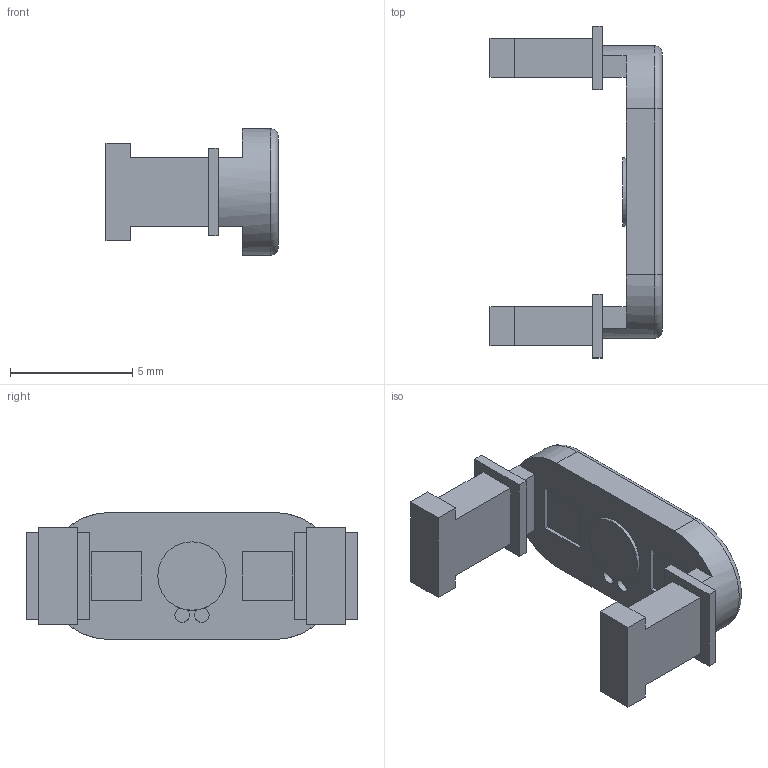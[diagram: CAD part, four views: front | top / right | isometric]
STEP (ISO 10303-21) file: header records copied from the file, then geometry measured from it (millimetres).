
FILE_DESCRIPTION(('Open CASCADE Model'),'2;1');
FILE_NAME('Open CASCADE Shape Model','2026-09-21T11:06:42',('Author'),( 'Open CASCADE'),'Open CASCADE STEP processor 7.7','Open CASCADE 7.7' ,'Unknown');
FILE_SCHEMA(('AUTOMOTIVE_DESIGN { 1 0 10303 214 1 1 1 1 }'));
Length unit declared in the file: millimetre
Products named in the file (1): Open CASCADE STEP translator 7.7 11
Bounding box: 7.05 x 13.6 x 5.2 mm (x, y, z)
Volume: 137.1 mm3; surface area: 295.1 mm2
Topology: 1 solids, 1 shells, 69 faces, 173 edges, 114 vertices
Faces by surface type: plane 60, cylinder 7, torus 2
Full cylindrical faces by diameter (mm): 0.6 x2, 2.8 x1
Entity records: 4257 total; most frequent: CARTESIAN_POINT 847, DIRECTION 598, LINE 391, VECTOR 391, ORIENTED_EDGE 346, PCURVE 346, DEFINITIONAL_REPRESENTATION 346, EDGE_CURVE 173
